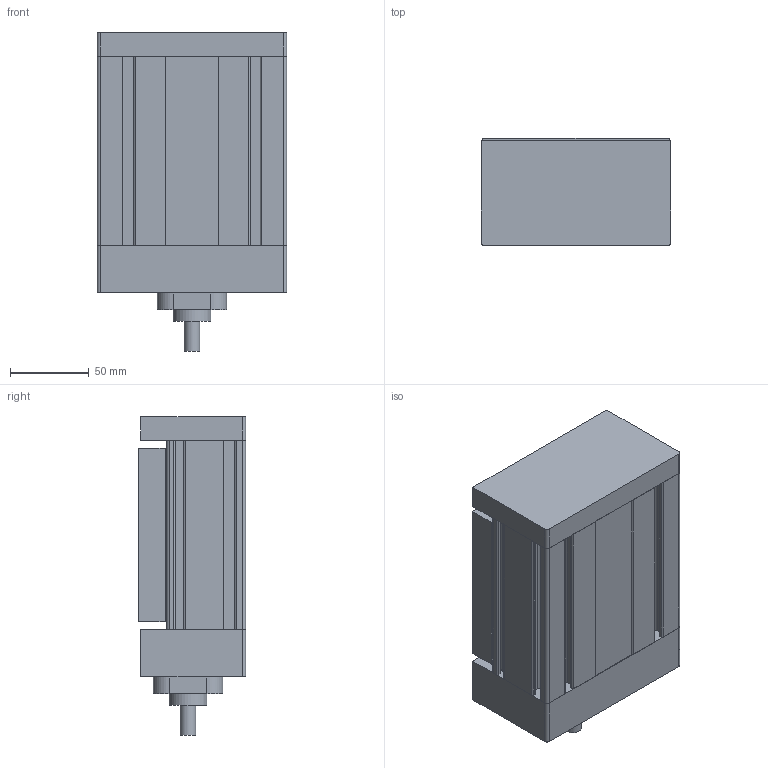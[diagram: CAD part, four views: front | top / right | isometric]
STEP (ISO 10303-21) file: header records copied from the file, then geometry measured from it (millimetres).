
FILE_DESCRIPTION((''),'2;1');
FILE_NAME('C:\Users\disegnatore3\Desktop\alberto_3d\MODELLI PER SITO WEB\ASSI\ML120\ML120PROV-22\FORMATO CAD\ML120PROV-22.stp','2016-09-12T12:11:44',('disegnatore3'),(''),'Autodesk Inventor 2012','Autodesk Inventor 2012','');
FILE_SCHEMA(('AUTOMOTIVE_DESIGN { 1 0 10303 214 1 1 1 1 }'));
Length unit declared in the file: millimetre
Products named in the file (5): ML120PROV-22; PR120PRO; CR120PRO-22; TM120PROV; TR120PROV
Assembly tree (4 placements, depth 2):
  ML120PROV-22
    PR120PRO
    CR120PRO-22
    TM120PROV
    TR120PROV
Bounding box: 120 x 68 x 202 mm (x, y, z)
Volume: 1260179.6 mm3; surface area: 157811.4 mm2
Topology: 4 solids, 4 shells, 159 faces, 442 edges, 294 vertices
Faces by surface type: plane 83, cylinder 68, cone 8
Full cylindrical faces by diameter (mm): 3.242 x4, 4.134 x10, 10 x1, 24 x1
Entity records: 5053 total; most frequent: DIRECTION 876, CARTESIAN_POINT 852, ORIENTED_EDGE 808, EDGE_CURVE 404, AXIS2_PLACEMENT_3D 304, VERTEX_POINT 280, VECTOR 268, LINE 268
